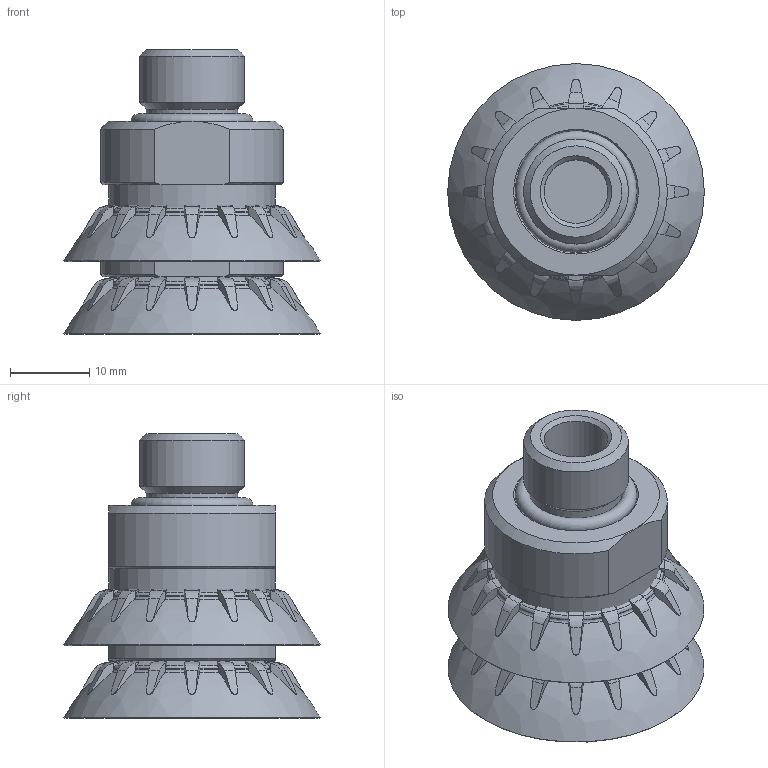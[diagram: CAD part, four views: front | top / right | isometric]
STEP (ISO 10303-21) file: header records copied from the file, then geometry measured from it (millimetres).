
FILE_DESCRIPTION( ( 'Unknown' ), '1' );
FILE_NAME( 'C:/Documents and Settings/Administrator/官帕 拳搁/Magic Cup (Dim)/B1.5/X TYPE/B1.5-20/B1.5-20-X30-N6-A-F2-14M.stp', 'Unknown', ( 'Unknown' ), ( 'Unknown' ), 'XStep 1.0', 'Unknown', ' ' );
FILE_SCHEMA( ( 'automotive_design' ) );
Length unit declared in the file: millimetre
Products named in the file (8): Assem1; Assem2; Assem3; 赤20 STOPPER ; X30(DIM); B1.5-20(DIM); 20-14M(DIM); 14M-Oring(DIM)
Bounding box: 32.28 x 32.28 x 35.83 mm (x, y, z)
Volume: 21347.6 mm3; surface area: 24295.1 mm2
Topology: 15 solids, 15 shells, 1917 faces, 4989 edges, 3144 vertices
Faces by surface type: plane 522, torus 483, cylinder 429, cone 288, bspline 195
Full cylindrical faces by diameter (mm): 8 x3, 9.8 x3, 11.5 x3, 11.9 x6, 13.2 x3, 13.4 x3, 14.4 x3, 15 x6, 15.3 x3, 15.7 x3, 16 x3, 17 x3, 17.5 x3, 19.8 x3, 21 x3, 23 x3
Entity records: 26758 total; most frequent: CARTESIAN_POINT 12057, ORIENTED_EDGE 3158, DIRECTION 2435, EDGE_CURVE 1579, AXIS2_PLACEMENT_3D 1090, VERTEX_POINT 1039, B_SPLINE_CURVE_WITH_KNOTS 816, EDGE_LOOP 734
